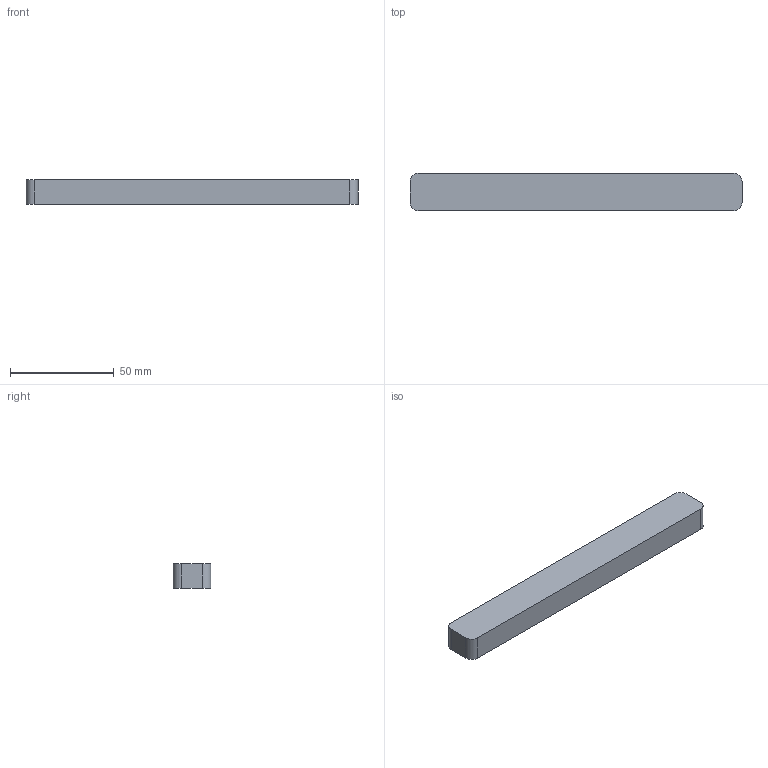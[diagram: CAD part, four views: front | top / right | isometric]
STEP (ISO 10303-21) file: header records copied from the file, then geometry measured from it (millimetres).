
FILE_DESCRIPTION(('Open CASCADE Model'),'2;1');
FILE_NAME('Open CASCADE Shape Model','2026-09-19T16:36:14',('Author'),( 'Open CASCADE'),'Open CASCADE STEP processor 7.8','Open CASCADE 7.8' ,'Unknown');
FILE_SCHEMA(('AUTOMOTIVE_DESIGN { 1 0 10303 214 1 1 1 1 }'));
Length unit declared in the file: millimetre
Products named in the file (1): Open CASCADE STEP translator 7.8 13
Bounding box: 160 x 18 x 12 mm (x, y, z)
Volume: 34395.2 mm3; surface area: 9922.1 mm2
Topology: 1 solids, 1 shells, 10 faces, 24 edges, 16 vertices
Faces by surface type: plane 6, cylinder 4
Entity records: 630 total; most frequent: CARTESIAN_POINT 123, DIRECTION 98, LINE 56, VECTOR 56, ORIENTED_EDGE 48, PCURVE 48, DEFINITIONAL_REPRESENTATION 48, EDGE_CURVE 24
